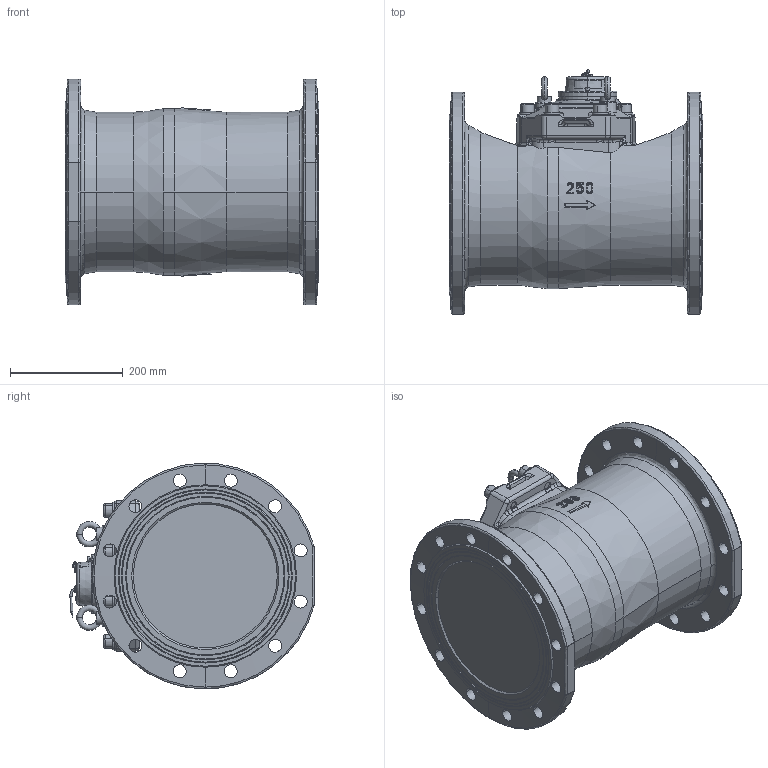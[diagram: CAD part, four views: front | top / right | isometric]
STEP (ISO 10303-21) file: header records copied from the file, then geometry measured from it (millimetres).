
FILE_DESCRIPTION (( 'STEP AP214' ), '1' );
FILE_NAME ('MWN130-250-NC.STEP', '2025-08-01T11:57:48', ( '' ), ( '' ), 'SwSTEP 2.0', 'SolidWorks 2019', '' );
FILE_SCHEMA (( 'AUTOMOTIVE_DESIGN' ));
Length unit declared in the file: millimetre
Products named in the file (1): MWN130-250-NC
Bounding box: 450 x 433.02 x 399.91 mm (x, y, z)
Surface area: 1274523 mm2 (no closed solid volume)
Topology: 0 solids, 47 shells, 2146 faces, 5416 edges, 3384 vertices
Faces by surface type: cylinder 699, plane 691, cone 325, bspline 243, torus 154, sphere 34
Entity records: 121818 total; most frequent: CARTESIAN_POINT 48655, ORIENTED_EDGE 10649, DIRECTION 9884, EDGE_CURVE 5327, AXIS2_PLACEMENT_3D 3905, VERTEX_POINT 3377, EDGE_LOOP 2395, UNCERTAINTY_MEASURE_WITH_UNIT 2154
